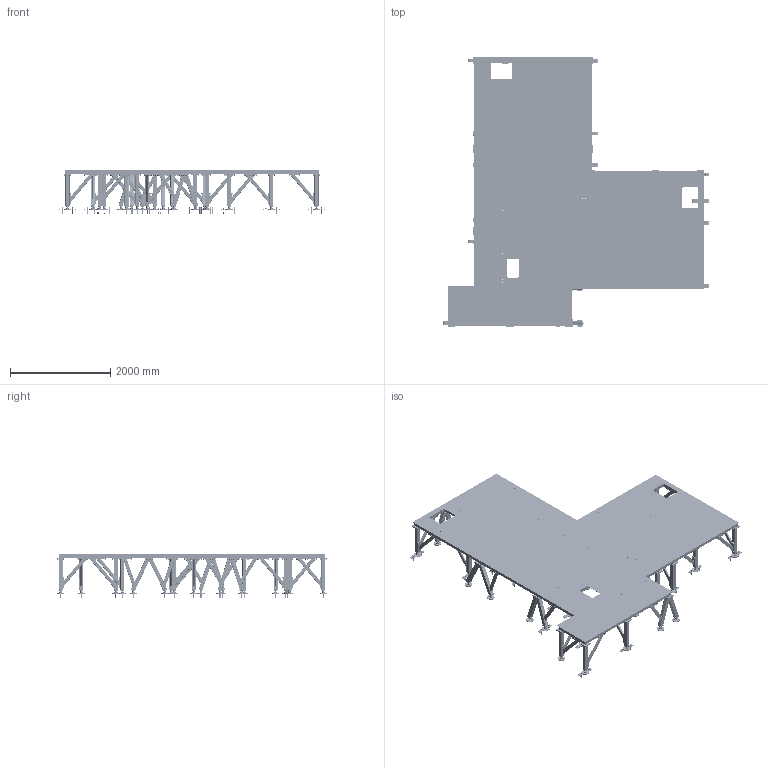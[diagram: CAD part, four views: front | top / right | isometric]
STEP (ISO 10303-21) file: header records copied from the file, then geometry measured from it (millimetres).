
FILE_DESCRIPTION (( 'STEP AP214' ), '1' );
FILE_NAME ('PIC-CADB-01.STEP', '2024-10-01T14:52:22', ( '' ), ( '' ), 'SwSTEP 2.0', 'SolidWorks 2017', '' );
FILE_SCHEMA (( 'AUTOMOTIVE_DESIGN' ));
Length unit declared in the file: millimetre
Products named in the file (30): z-cacher; Z-Tige filetée - M12-_M12x200; PIC-CADB-05_3; z_Screw_H_SCREW H M10x30-26; PIC-CADB-08_M16; PIC-CADB-08; z-M10 assy; z_Washer_WASHER M 12; Z-Hilti_Cheville segments HSA M16x137; v2-FAU-BBC2-05_3<Brut d''usinage>; PIC-CADB-05_1; Z-M12 ASSY-_160; PIC-CADB-01; PIC-CADB-05_1<Brut d''usinage>; PIC-CADB-05_2; PIC-CADB-02_D‚faut<Brut d''usinage>; PIC-CADB-07; z_NUT_H_NUT H M 12; v2-FAU-BBC2-05_2; z_m36x140; PIC-CADB-05_3<Brut d''usinage>; PIC-CADB-04; Z_Washer-_WASHER M 10; PIC-CADB-07_DWG; PIC-CADB-05_2<Brut d''usinage>; z-ecrou_m36; v2-FAU-BBC2-05_2-2; v2-FAU-BBC2-05_1<Brut d''usinage>; PIC-CADB-06_1<Brut d''usinage>
Assembly tree (442 placements, depth 4):
  PIC-CADB-01
    PIC-CADB-02_D‚faut<Brut d''usinage>
    PIC-CADB-04
    PIC-CADB-05_1  x11
      PIC-CADB-05_2<Brut d''usinage>
      z-M10 assy
        z_Screw_H_SCREW H M10x30-26
        Z_Washer-_WASHER M 10
      PIC-CADB-06_1<Brut d''usinage>
      PIC-CADB-07_DWG
        z_m36x140
        z-ecrou_m36
        PIC-CADB-07
    PIC-CADB-05_2  x8
      PIC-CADB-05_1<Brut d''usinage>
      z-M10 assy
        z_Screw_H_SCREW H M10x30-26
        Z_Washer-_WASHER M 10
      PIC-CADB-06_1<Brut d''usinage>
      PIC-CADB-07_DWG
        z_m36x140
        z-ecrou_m36
        PIC-CADB-07
    PIC-CADB-05_3
      PIC-CADB-05_3<Brut d''usinage>
      z-M10 assy  x24
        z_Screw_H_SCREW H M10x30-26
        Z_Washer-_WASHER M 10
      PIC-CADB-06_1<Brut d''usinage>  x3
      PIC-CADB-07_DWG
        z_m36x140
        z-ecrou_m36
        PIC-CADB-07
    Z-M12 ASSY-_160  x8
      Z-Tige filetée - M12-_M12x200
      z_Washer_WASHER M 12
      z_NUT_H_NUT H M 12
    PIC-CADB-08_M16
      PIC-CADB-08  x2
      Z-Hilti_Cheville segments HSA M16x137  x2
    PIC-CADB-08_M16  x32
      z-cacher
      PIC-CADB-08
      Z-Hilti_Cheville segments HSA M16x137
    z-M10 assy  x272
      z_Screw_H_SCREW H M10x30-26
      Z_Washer-_WASHER M 10
    v2-FAU-BBC2-05_2-2  x10
      v2-FAU-BBC2-05_3<Brut d''usinage>
      PIC-CADB-07_DWG
        z_m36x140
        z-ecrou_m36
        PIC-CADB-07
      z-M10 assy
        z_Screw_H_SCREW H M10x30-26
        Z_Washer-_WASHER M 10
    v2-FAU-BBC2-05_2  x4
      v2-FAU-BBC2-05_1<Brut d''usinage>
      PIC-CADB-07_DWG
        z_m36x140
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Bounding box: 5304.2 x 5380 x 888.5 mm (x, y, z)
Volume: 238141077.5 mm3; surface area: 135401868.4 mm2
Topology: 2204 solids, 2270 shells, 32611 faces, 76932 edges, 49708 vertices
Faces by surface type: plane 14287, cylinder 12380, cone 5386, bspline 558
Entity records: 227852 total; most frequent: CARTESIAN_POINT 36728, DIRECTION 36071, ORIENTED_EDGE 33064, EDGE_CURVE 16532, AXIS2_PLACEMENT_3D 13435, VERTEX_POINT 11042, LINE 9201, VECTOR 9201
